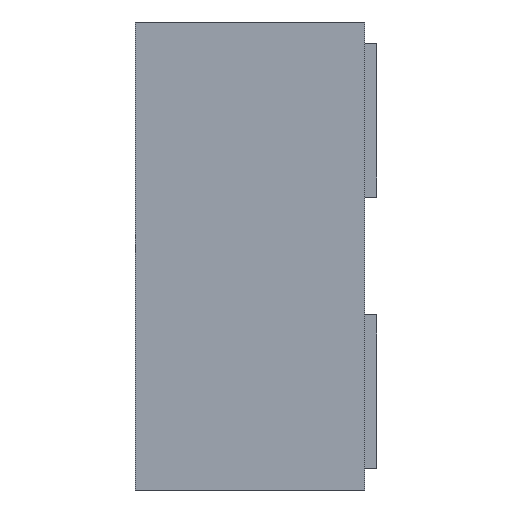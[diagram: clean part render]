
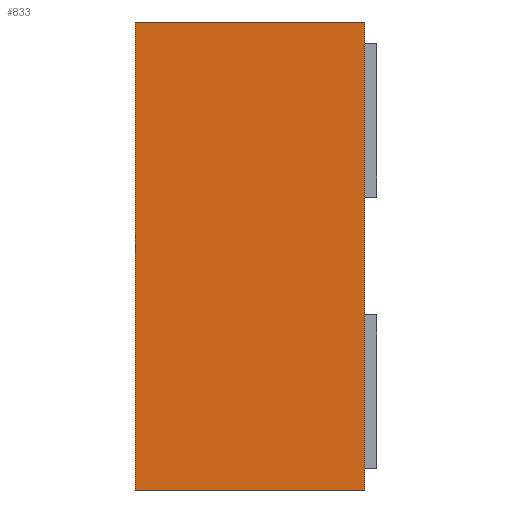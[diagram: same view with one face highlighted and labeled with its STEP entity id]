
A CAD part, left-side view. The second image highlights one B-rep face of the part: STEP entity #833.
In plain terms, the highlighted planar face has unit normal (-1, 0, 0).
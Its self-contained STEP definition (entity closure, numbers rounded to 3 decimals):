
#772 = CARTESIAN_POINT ( 'NONE',  ( -0.6, 0.02, -0.388 ) ) ;
#773 = VERTEX_POINT ( 'NONE', #772 ) ;
#780 = CARTESIAN_POINT ( 'NONE',  ( -0.6, 0.4, -0.388 ) ) ;
#781 = VERTEX_POINT ( 'NONE', #780 ) ;
#782 = CARTESIAN_POINT ( 'NONE',  ( -0.6, 0.4, -0.388 ) ) ;
#783 = DIRECTION ( 'NONE',  ( 0., -1., 0. ) ) ;
#784 = VECTOR ( 'NONE', #783, 1000. ) ;
#785 = LINE ( 'NONE', #782, #784 ) ;
#786 = EDGE_CURVE ( 'NONE', #781, #773, #785, .T. ) ;
#803 = CARTESIAN_POINT ( 'NONE',  ( -0.6, 0.02, 0.388 ) ) ;
#804 = VERTEX_POINT ( 'NONE', #803 ) ;
#805 = CARTESIAN_POINT ( 'NONE',  ( -0.6, 0.02, 0.388 ) ) ;
#806 = DIRECTION ( 'NONE',  ( 0., 0., 1. ) ) ;
#807 = VECTOR ( 'NONE', #806, 1000. ) ;
#808 = LINE ( 'NONE', #805, #807 ) ;
#809 = EDGE_CURVE ( 'NONE', #773, #804, #808, .T. ) ;
#810 = ORIENTED_EDGE ( 'NONE', *, *, #809, .T. ) ;
#811 = CARTESIAN_POINT ( 'NONE',  ( -0.6, 0.4, 0.388 ) ) ;
#812 = VERTEX_POINT ( 'NONE', #811 ) ;
#813 = CARTESIAN_POINT ( 'NONE',  ( -0.6, 0.4, 0.388 ) ) ;
#814 = DIRECTION ( 'NONE',  ( 0., -1., 0. ) ) ;
#815 = VECTOR ( 'NONE', #814, 1000. ) ;
#816 = LINE ( 'NONE', #813, #815 ) ;
#817 = EDGE_CURVE ( 'NONE', #812, #804, #816, .T. ) ;
#818 = ORIENTED_EDGE ( 'NONE', *, *, #817, .F. ) ;
#819 = CARTESIAN_POINT ( 'NONE',  ( -0.6, 0.4, 0.388 ) ) ;
#820 = DIRECTION ( 'NONE',  ( 0., 0., 1. ) ) ;
#821 = VECTOR ( 'NONE', #820, 1000. ) ;
#822 = LINE ( 'NONE', #819, #821 ) ;
#823 = EDGE_CURVE ( 'NONE', #781, #812, #822, .T. ) ;
#824 = ORIENTED_EDGE ( 'NONE', *, *, #823, .F. ) ;
#825 = ORIENTED_EDGE ( 'NONE', *, *, #786, .T. ) ;
#826 = EDGE_LOOP ( 'NONE', ( #810, #818, #824, #825 ) ) ;
#827 = FACE_OUTER_BOUND ( 'NONE', #826, .T. ) ;
#828 = CARTESIAN_POINT ( 'NONE',  ( -0.6, 0.4, 0.388 ) ) ;
#829 = DIRECTION ( 'NONE',  ( 1., 0., 0. ) ) ;
#830 = DIRECTION ( 'NONE',  ( 0., 0., -1. ) ) ;
#831 = AXIS2_PLACEMENT_3D ( 'NONE', #828, #829, #830 ) ;
#832 = PLANE ( 'NONE', #831 ) ;
#833 = ADVANCED_FACE ( 'NONE', ( #827 ), #832, .F. ) ;
